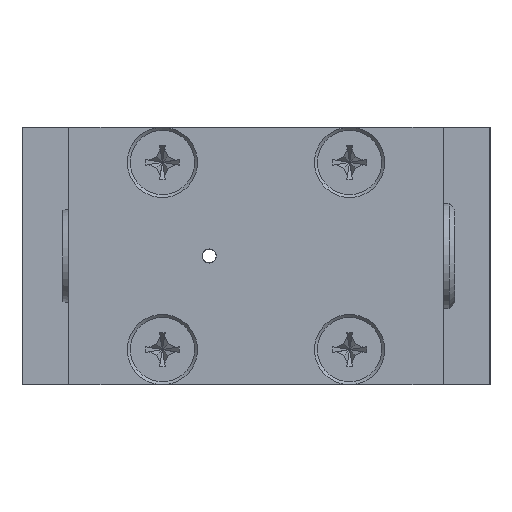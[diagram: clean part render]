
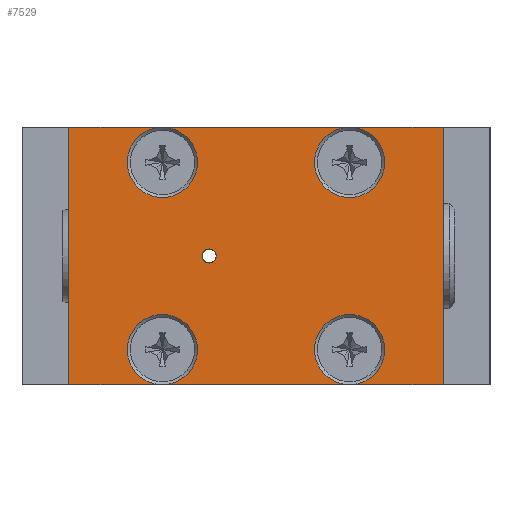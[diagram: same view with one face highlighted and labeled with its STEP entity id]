
A CAD part, left-side view. The second image highlights one B-rep face of the part: STEP entity #7529.
In plain terms, the highlighted planar face has unit normal (-1, 0, 0).
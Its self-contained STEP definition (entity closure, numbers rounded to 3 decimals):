
#134=LINE('',#12207,#941);
#138=LINE('',#12215,#945);
#139=LINE('',#12216,#946);
#140=LINE('',#12217,#947);
#143=LINE('',#12225,#950);
#145=LINE('',#12228,#952);
#146=LINE('',#12230,#953);
#147=LINE('',#12231,#954);
#941=VECTOR('',#10333,1000.);
#945=VECTOR('',#10339,1000.);
#946=VECTOR('',#10340,1000.);
#947=VECTOR('',#10341,1000.);
#950=VECTOR('',#10348,1000.);
#952=VECTOR('',#10352,1000.);
#953=VECTOR('',#10353,1000.);
#954=VECTOR('',#10354,1000.);
#1739=PLANE('',#9755);
#2306=ORIENTED_EDGE('',*,*,#4286,.F.);
#2307=ORIENTED_EDGE('',*,*,#4311,.T.);
#2308=ORIENTED_EDGE('',*,*,#4313,.T.);
#2309=ORIENTED_EDGE('',*,*,#4310,.T.);
#2310=ORIENTED_EDGE('',*,*,#4298,.T.);
#2311=ORIENTED_EDGE('',*,*,#4304,.T.);
#2312=ORIENTED_EDGE('',*,*,#4291,.T.);
#2313=ORIENTED_EDGE('',*,*,#4303,.T.);
#2314=ORIENTED_EDGE('',*,*,#4293,.T.);
#2315=ORIENTED_EDGE('',*,*,#4302,.T.);
#2316=ORIENTED_EDGE('',*,*,#4308,.T.);
#2317=ORIENTED_EDGE('',*,*,#4312,.T.);
#2318=ORIENTED_EDGE('',*,*,#4295,.T.);
#4286=EDGE_CURVE('',#5404,#5404,#6144,.T.);
#4291=EDGE_CURVE('',#5409,#5409,#6148,.T.);
#4293=EDGE_CURVE('',#5411,#5411,#6150,.T.);
#4295=EDGE_CURVE('',#5413,#5413,#6152,.T.);
#4298=EDGE_CURVE('',#5417,#5416,#134,.T.);
#4302=EDGE_CURVE('',#5411,#5419,#138,.T.);
#4303=EDGE_CURVE('',#5409,#5411,#139,.T.);
#4304=EDGE_CURVE('',#5416,#5409,#140,.T.);
#4308=EDGE_CURVE('',#5419,#5422,#143,.T.);
#4310=EDGE_CURVE('',#5423,#5417,#145,.T.);
#4311=EDGE_CURVE('',#5413,#5423,#146,.T.);
#4312=EDGE_CURVE('',#5422,#5413,#147,.T.);
#4313=EDGE_CURVE('',#5423,#5423,#6154,.T.);
#5404=VERTEX_POINT('',#12168);
#5409=VERTEX_POINT('',#12190);
#5411=VERTEX_POINT('',#12195);
#5413=VERTEX_POINT('',#12200);
#5416=VERTEX_POINT('',#12206);
#5417=VERTEX_POINT('',#12208);
#5419=VERTEX_POINT('',#12214);
#5422=VERTEX_POINT('',#12224);
#5423=VERTEX_POINT('',#12229);
#6144=CIRCLE('',#9737,0.6);
#6148=CIRCLE('',#9743,3.);
#6150=CIRCLE('',#9746,3.);
#6152=CIRCLE('',#9749,3.);
#6154=CIRCLE('',#9756,3.);
#6314=EDGE_LOOP('',(#2306));
#6315=EDGE_LOOP('',(#2307,#2308,#2309,#2310,#2311,#2312,#2313,#2314,#2315,
#2316,#2317,#2318));
#6904=FACE_BOUND('',#6314,.T.);
#6905=FACE_BOUND('',#6315,.T.);
#7529=ADVANCED_FACE('',(#6904,#6905),#1739,.T.);
#9737=AXIS2_PLACEMENT_3D('',#12167,#10303,#10304);
#9743=AXIS2_PLACEMENT_3D('',#12189,#10315,#10316);
#9746=AXIS2_PLACEMENT_3D('',#12194,#10321,#10322);
#9749=AXIS2_PLACEMENT_3D('',#12199,#10327,#10328);
#9755=AXIS2_PLACEMENT_3D('',#12232,#10355,#10356);
#9756=AXIS2_PLACEMENT_3D('',#12233,#10357,#10358);
#10303=DIRECTION('',(-1.,0.,0.));
#10304=DIRECTION('',(0.,1.,0.));
#10315=DIRECTION('',(1.,0.,0.));
#10316=DIRECTION('',(0.,-1.,0.));
#10321=DIRECTION('',(1.,0.,0.));
#10322=DIRECTION('',(0.,-1.,0.));
#10327=DIRECTION('',(1.,0.,0.));
#10328=DIRECTION('',(0.,1.,0.));
#10333=DIRECTION('',(0.,0.,-1.));
#10339=DIRECTION('',(0.,-1.,0.));
#10340=DIRECTION('',(0.,-1.,0.));
#10341=DIRECTION('',(0.,-1.,0.));
#10348=DIRECTION('',(0.,0.,1.));
#10352=DIRECTION('',(0.,1.,0.));
#10353=DIRECTION('',(0.,1.,0.));
#10354=DIRECTION('',(0.,1.,0.));
#10355=DIRECTION('',(-1.,0.,0.));
#10356=DIRECTION('',(0.,1.,0.));
#10357=DIRECTION('',(1.,0.,0.));
#10358=DIRECTION('',(0.,1.,0.));
#12167=CARTESIAN_POINT('',(-86.,4.,0.));
#12168=CARTESIAN_POINT('',(-86.,4.6,0.));
#12189=CARTESIAN_POINT('',(-86.,8.,-8.));
#12190=CARTESIAN_POINT('',(-86.,8.,-11.));
#12194=CARTESIAN_POINT('',(-86.,-8.,-8.));
#12195=CARTESIAN_POINT('',(-86.,-8.,-11.));
#12199=CARTESIAN_POINT('',(-86.,-8.,8.));
#12200=CARTESIAN_POINT('',(-86.,-8.,11.));
#12206=CARTESIAN_POINT('',(-86.,16.,-11.));
#12207=CARTESIAN_POINT('',(-86.,16.,11.));
#12208=CARTESIAN_POINT('',(-86.,16.,11.));
#12214=CARTESIAN_POINT('',(-86.,-16.,-11.));
#12215=CARTESIAN_POINT('',(-86.,-8.,-11.));
#12216=CARTESIAN_POINT('',(-86.,8.,-11.));
#12217=CARTESIAN_POINT('',(-86.,18.,-11.));
#12224=CARTESIAN_POINT('',(-86.,-16.,11.));
#12225=CARTESIAN_POINT('',(-86.,-16.,-11.));
#12228=CARTESIAN_POINT('',(-86.,8.,11.));
#12229=CARTESIAN_POINT('',(-86.,8.,11.));
#12230=CARTESIAN_POINT('',(-86.,-8.,11.));
#12231=CARTESIAN_POINT('',(-86.,-18.,11.));
#12232=CARTESIAN_POINT('',(-86.,-18.,11.068));
#12233=CARTESIAN_POINT('',(-86.,8.,8.));
